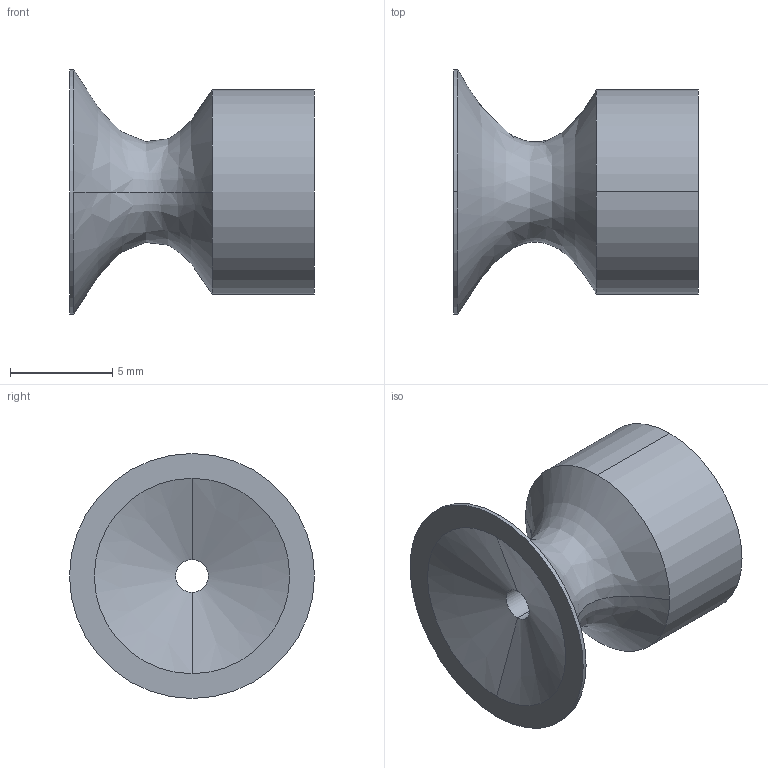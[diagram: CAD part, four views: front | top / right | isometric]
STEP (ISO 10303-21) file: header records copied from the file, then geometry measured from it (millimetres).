
FILE_DESCRIPTION (( 'STEP AP214' ), '1' );
FILE_NAME ('VSH-12R.STEP', '2019-11-14T01:25:17', ( '微软用户' ), ( '微软中国' ), 'SwSTEP 2.0', 'SolidWorks 2016', '' );
FILE_SCHEMA (( 'AUTOMOTIVE_DESIGN' ));
Length unit declared in the file: millimetre
Products named in the file (1): VSH-12R
Bounding box: 12 x 12 x 12 mm (x, y, z)
Volume: 530.8 mm3; surface area: 707.9 mm2
Topology: 1 solids, 1 shells, 18 faces, 40 edges, 26 vertices
Faces by surface type: cylinder 10, plane 4, cone 2, bspline 2
Entity records: 566 total; most frequent: CARTESIAN_POINT 111, DIRECTION 98, ORIENTED_EDGE 80, AXIS2_PLACEMENT_3D 43, EDGE_CURVE 40, CIRCLE 26, VERTEX_POINT 26, EDGE_LOOP 22
